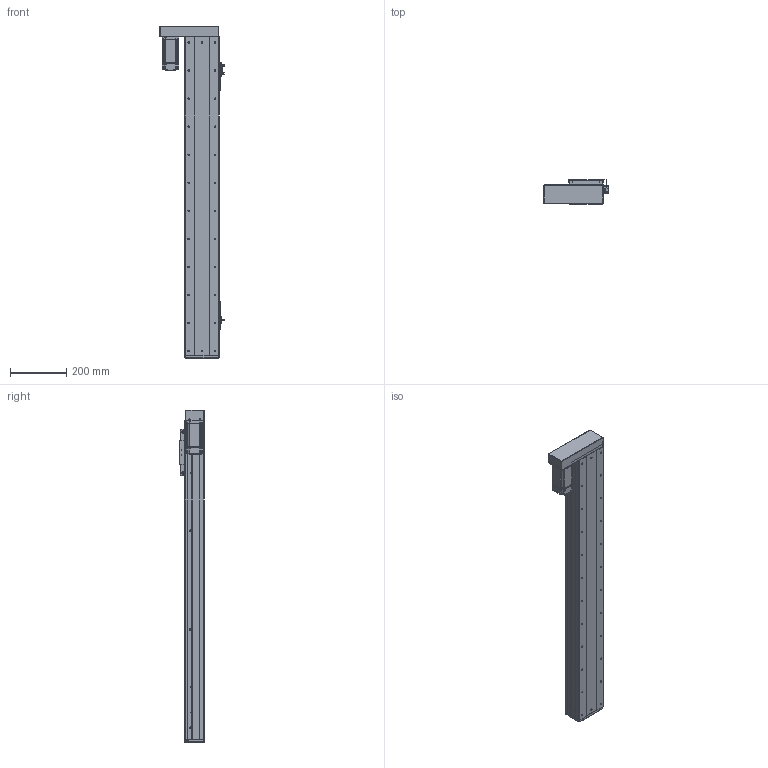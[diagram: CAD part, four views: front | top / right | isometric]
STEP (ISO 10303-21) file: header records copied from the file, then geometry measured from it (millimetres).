
FILE_DESCRIPTION (( 'STEP AP203' ), '1' );
FILE_NAME ('RY120F-L1620-300-LK.SLDASM_900.step', '2021-03-02T08:04:15', ( '盈信电脑' ), ( '东莞市道滘镇水果街19号' ), 'SwSTEP 2.0', 'SolidWorks 2012', '' );
FILE_SCHEMA (( 'CONFIG_CONTROL_DESIGN' ));
Products named in the file (18): RY120F转折电机端支撑座; 滅袉蝶18-24; RY120F綴裔啣(臏璃ㄘ; RY120F祥凄詩滅鳥裔; RY120F酘衵殏萇儂啣(200W PCD70 M4); RY120F酘衵殏萇儂欶(200W); 15; RY120F-L1620-300-LK.SLDASM_900; RY80俋离覜茼え; FY120F詩湍揤踡輸; 672嫖萇羲壽假蚾釱; 覜茼ん672; RY120F-詩湍幗謫粣; RT120F-臏賑輸 16蹟譫; RT120F-300-倰第裔啣-LK_900; RT120F-臏賑輸奻釱; RY120F滅鳥詩湍-300-LK_900; RT120F-300-倰第菁釱-LK_900
Assembly tree (23 placements, depth 2):
  RY120F-L1620-300-LK.SLDASM_900
    RT120F-300-倰第菁釱-LK_900
    RT120F-300-倰第裔啣-LK_900  x2
    RY120F滅鳥詩湍-300-LK_900
    RT120F-臏賑輸 16蹟譫
    RT120F-臏賑輸奻釱
    RY120F转折电机端支撑座
    RY120F祥凄詩滅鳥裔
    滅袉蝶18-24  x2
    RY120F綴裔啣(臏璃ㄘ
    RY120F-詩湍幗謫粣
    覜茼ん672  x3
    672嫖萇羲壽假蚾釱  x2
    RY80俋离覜茼え
    FY120F詩湍揤踡輸  x2
    15
    RY120F酘衵殏萇儂啣(200W PCD70 M4)
    RY120F酘衵殏萇儂欶(200W)
Bounding box: 229.9 x 89 x 1184 mm (x, y, z)
Volume: 3995964.2 mm3; surface area: 1472567.8 mm2
Topology: 23 solids, 23 shells, 2155 faces, 5781 edges, 3669 vertices
Faces by surface type: cylinder 980, plane 896, cone 253, bspline 26
Entity records: 60583 total; most frequent: CARTESIAN_POINT 11216, DIRECTION 10237, ORIENTED_EDGE 9554, EDGE_CURVE 4777, AXIS2_PLACEMENT_3D 3718, VERTEX_POINT 3113, LINE 2801, VECTOR 2801
